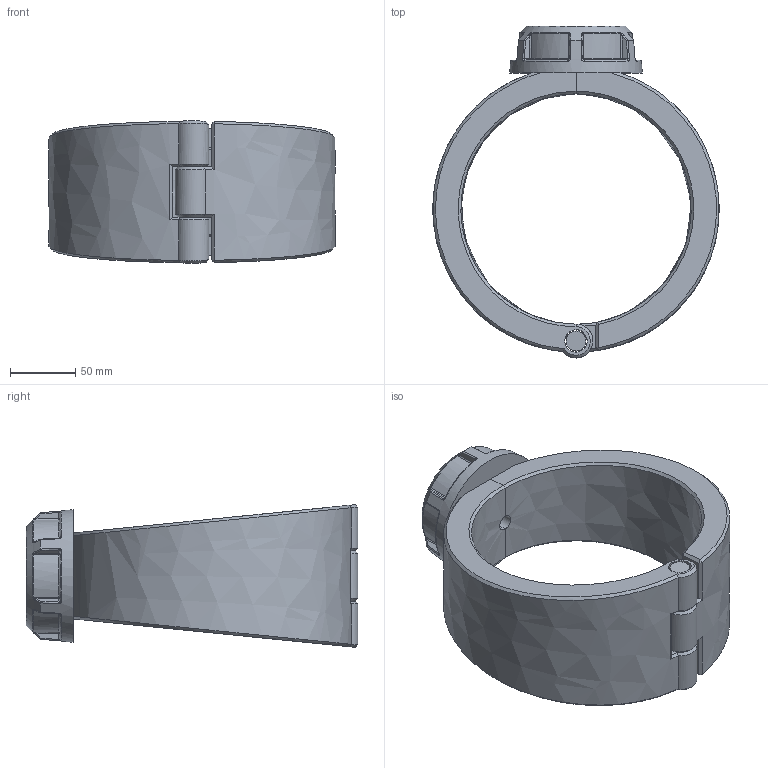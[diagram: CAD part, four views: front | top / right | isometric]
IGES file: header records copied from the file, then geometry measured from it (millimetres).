
Global section: file name: 163000177007; native system: Autodesk Inventor 2019; preprocessor: unknown; author: comp2; date: 20220203.115153; units: millimetre
Bounding box: 220 x 255 x 109.6 mm (x, y, z)
Volume: 1354968.1 mm3; surface area: 177972 mm2
Topology: 4 solids, 4 shells, 203 faces, 486 edges, 293 vertices
Faces by surface type: bspline 203
